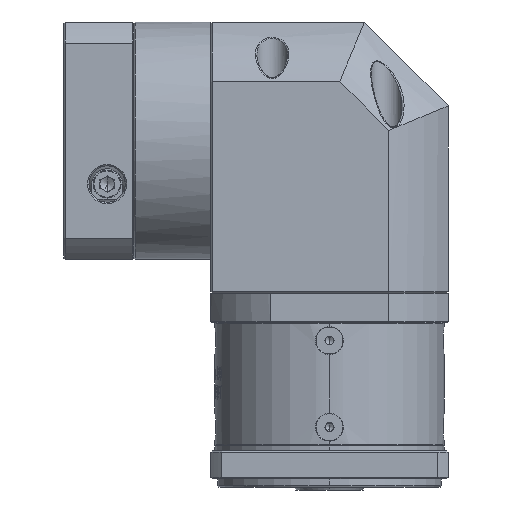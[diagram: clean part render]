
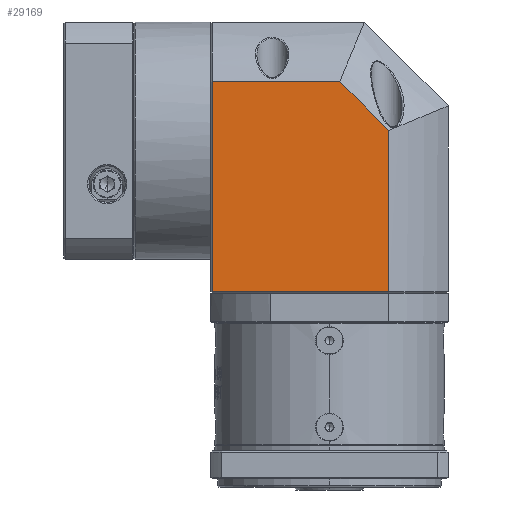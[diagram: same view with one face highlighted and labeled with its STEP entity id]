
A CAD part, left-side view. The second image highlights one B-rep face of the part: STEP entity #29169.
In plain terms, the highlighted planar face has unit normal (-1, 0, 0).
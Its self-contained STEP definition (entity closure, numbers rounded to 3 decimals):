
#1078 = EDGE_CURVE ( 'NONE', #118725, #88325, #123388, .T. ) ;
#5301 = LINE ( 'NONE', #47001, #106920 ) ;
#11449 = EDGE_CURVE ( 'NONE', #104101, #45273, #15107, .T. ) ;
#15107 = LINE ( 'NONE', #98917, #48553 ) ;
#17346 = DIRECTION ( 'NONE',  ( 0., -1., 0. ) ) ;
#21569 = VECTOR ( 'NONE', #56885, 1000. ) ;
#25394 = VECTOR ( 'NONE', #31795, 1000. ) ;
#28713 = CARTESIAN_POINT ( 'NONE',  ( -103.981, 7.265, -17.622 ) ) ;
#28981 = ORIENTED_EDGE ( 'NONE', *, *, #11449, .F. ) ;
#29167 = CARTESIAN_POINT ( 'NONE',  ( -103.981, 7.265, 40.061 ) ) ;
#29169 = ADVANCED_FACE ( 'NONE', ( #112768 ), #80010, .F. ) ;
#30112 = ORIENTED_EDGE ( 'NONE', *, *, #1078, .F. ) ;
#31795 = DIRECTION ( 'NONE',  ( 0., 0., -1. ) ) ;
#45273 = VERTEX_POINT ( 'NONE', #61461 ) ;
#46240 = CARTESIAN_POINT ( 'NONE',  ( -103.981, 24.796, 57.591 ) ) ;
#47001 = CARTESIAN_POINT ( 'NONE',  ( -103.981, 70.979, 57.591 ) ) ;
#48553 = VECTOR ( 'NONE', #75568, 1000. ) ;
#56885 = DIRECTION ( 'NONE',  ( 0., -0.707, -0.707 ) ) ;
#60583 = ORIENTED_EDGE ( 'NONE', *, *, #72706, .T. ) ;
#61461 = CARTESIAN_POINT ( 'NONE',  ( -103.981, 70.479, 57.591 ) ) ;
#63535 = CARTESIAN_POINT ( 'NONE',  ( -103.981, 24.796, 57.591 ) ) ;
#64367 = CARTESIAN_POINT ( 'NONE',  ( -103.981, 7.265, 82.378 ) ) ;
#66854 = EDGE_CURVE ( 'NONE', #45273, #118725, #5301, .T. ) ;
#67060 = VECTOR ( 'NONE', #17346, 1000. ) ;
#72706 = EDGE_CURVE ( 'NONE', #104101, #108137, #110383, .T. ) ;
#75568 = DIRECTION ( 'NONE',  ( 0., 0., 1. ) ) ;
#80010 = PLANE ( 'NONE',  #110670 ) ;
#80046 = CARTESIAN_POINT ( 'NONE',  ( -103.981, 70.979, 78.878 ) ) ;
#82456 = CARTESIAN_POINT ( 'NONE',  ( -103.981, 70.979, -17.622 ) ) ;
#86204 = ORIENTED_EDGE ( 'NONE', *, *, #104752, .F. ) ;
#88325 = VERTEX_POINT ( 'NONE', #29167 ) ;
#98917 = CARTESIAN_POINT ( 'NONE',  ( -103.981, 70.479, 78.878 ) ) ;
#104101 = VERTEX_POINT ( 'NONE', #134658 ) ;
#104752 = EDGE_CURVE ( 'NONE', #88325, #108137, #128798, .T. ) ;
#106920 = VECTOR ( 'NONE', #111223, 1000. ) ;
#108137 = VERTEX_POINT ( 'NONE', #28713 ) ;
#110383 = LINE ( 'NONE', #82456, #67060 ) ;
#110670 = AXIS2_PLACEMENT_3D ( 'NONE', #80046, #113606, #130440 ) ;
#111223 = DIRECTION ( 'NONE',  ( 0., -1., 0. ) ) ;
#112768 = FACE_OUTER_BOUND ( 'NONE', #122765, .T. ) ;
#113606 = DIRECTION ( 'NONE',  ( 1., 0., 0. ) ) ;
#117601 = ORIENTED_EDGE ( 'NONE', *, *, #66854, .F. ) ;
#118725 = VERTEX_POINT ( 'NONE', #63535 ) ;
#122765 = EDGE_LOOP ( 'NONE', ( #60583, #86204, #30112, #117601, #28981 ) ) ;
#123388 = LINE ( 'NONE', #46240, #21569 ) ;
#128798 = LINE ( 'NONE', #64367, #25394 ) ;
#130440 = DIRECTION ( 'NONE',  ( 0., 1., 0. ) ) ;
#134658 = CARTESIAN_POINT ( 'NONE',  ( -103.981, 70.479, -17.622 ) ) ;
